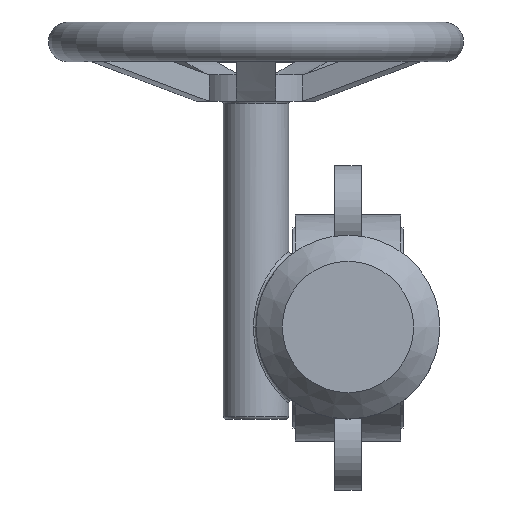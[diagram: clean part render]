
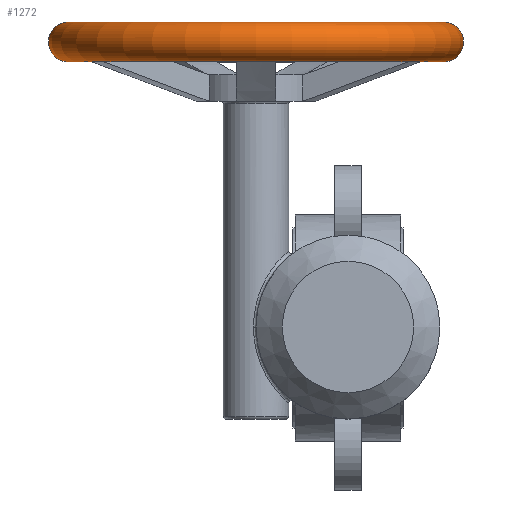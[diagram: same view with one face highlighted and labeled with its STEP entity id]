
A CAD part, top view. The second image highlights one B-rep face of the part: STEP entity #1272.
In plain terms, the highlighted toroidal (fillet/blend) face has major radius 71.5 mm and minor radius 7.5 mm.
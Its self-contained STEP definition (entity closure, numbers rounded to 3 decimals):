
#1272=ADVANCED_FACE('',(#2992,#2994),#2996,.T.);
#2992=FACE_OUTER_BOUND('',#2993,.T.);
#2993=EDGE_LOOP('',(#3612));
#2994=FACE_OUTER_BOUND('',#2995,.T.);
#2995=EDGE_LOOP('',(#3613));
#2996=TOROIDAL_SURFACE('',#2997,71.5,7.5);
#2997=AXIS2_PLACEMENT_3D('',#2998,#2999,#3000);
#2998=CARTESIAN_POINT('',(-35.,108.5,161.));
#2999=DIRECTION('',(0.,-1.,0.));
#3000=DIRECTION('',(0.,0.,1.));
#3612=ORIENTED_EDGE('',*,*,#3918,.T.);
#3613=ORIENTED_EDGE('',*,*,#3877,.F.);
#3877=EDGE_CURVE('',#4374,#4374,#4375,.T.);
#3918=EDGE_CURVE('',#4434,#4434,#4435,.T.);
#4374=VERTEX_POINT('',#6882);
#4375=CIRCLE('',#6883,71.5);
#4434=VERTEX_POINT('',#7131);
#4435=CIRCLE('',#7132,71.5);
#6882=CARTESIAN_POINT('',(-35.,101.,232.5));
#6883=AXIS2_PLACEMENT_3D('',#6884,#6885,#6886);
#6884=CARTESIAN_POINT('',(-35.,101.,161.));
#6885=DIRECTION('',(0.,-1.,0.));
#6886=DIRECTION('',(0.,0.,1.));
#7131=CARTESIAN_POINT('',(-35.,116.,232.5));
#7132=AXIS2_PLACEMENT_3D('',#7133,#7134,#7135);
#7133=CARTESIAN_POINT('',(-35.,116.,161.));
#7134=DIRECTION('',(0.,-1.,0.));
#7135=DIRECTION('',(0.,0.,1.));
